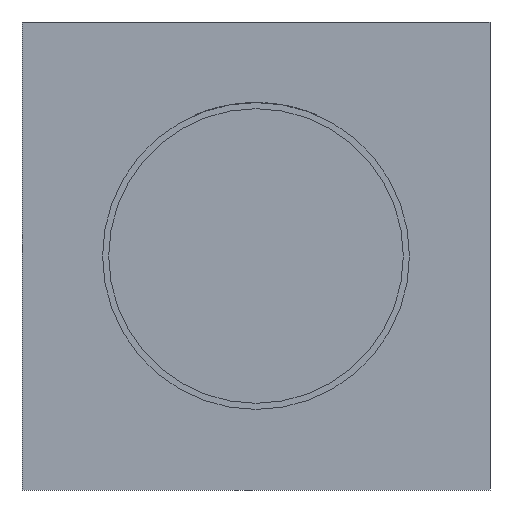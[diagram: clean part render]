
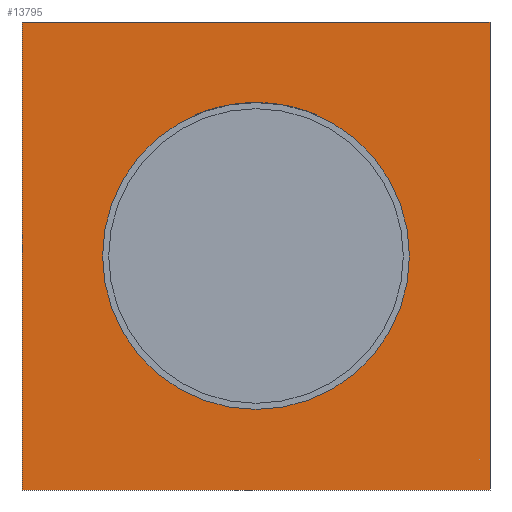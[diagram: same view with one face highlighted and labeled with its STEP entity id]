
A CAD part, front view. The second image highlights one B-rep face of the part: STEP entity #13795.
In plain terms, the highlighted planar face has unit normal (0, -1, 0).
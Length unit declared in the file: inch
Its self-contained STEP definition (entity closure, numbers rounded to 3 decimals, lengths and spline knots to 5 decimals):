
#13499=CARTESIAN_POINT('',(-2.0,4.25,0.0));
#13500=VERTEX_POINT('',#13499);
#13501=CARTESIAN_POINT('',(0.0,4.25,0.0));
#13502=DIRECTION('',(0.0,1.0,0.0));
#13503=DIRECTION('',(-1.0,0.0,0.0));
#13504=AXIS2_PLACEMENT_3D('',#13501,#13502,#13503);
#13505=CIRCLE('',#13504,2.0);
#13506=EDGE_CURVE('',#13500,#13500,#13505,.T.);
#13628=CARTESIAN_POINT('',(3.05,4.25,-3.05));
#13629=VERTEX_POINT('',#13628);
#13630=CARTESIAN_POINT('',(-3.05,4.25,-3.05));
#13631=VERTEX_POINT('',#13630);
#13632=CARTESIAN_POINT('',(3.05,4.25,-3.05));
#13633=DIRECTION('',(-1.0,0.0,0.0));
#13634=VECTOR('',#13633,6.1);
#13635=LINE('',#13632,#13634);
#13636=EDGE_CURVE('',#13629,#13631,#13635,.T.);
#13668=CARTESIAN_POINT('',(-3.05,4.25,3.05));
#13669=VERTEX_POINT('',#13668);
#13670=CARTESIAN_POINT('',(-3.05,4.25,-3.05));
#13671=DIRECTION('',(0.0,0.0,1.0));
#13672=VECTOR('',#13671,6.1);
#13673=LINE('',#13670,#13672);
#13674=EDGE_CURVE('',#13631,#13669,#13673,.T.);
#13699=CARTESIAN_POINT('',(3.05,4.25,3.05));
#13700=VERTEX_POINT('',#13699);
#13701=CARTESIAN_POINT('',(-3.05,4.25,3.05));
#13702=DIRECTION('',(1.0,0.0,0.0));
#13703=VECTOR('',#13702,6.1);
#13704=LINE('',#13701,#13703);
#13705=EDGE_CURVE('',#13669,#13700,#13704,.T.);
#13730=CARTESIAN_POINT('',(3.05,4.25,3.05));
#13731=DIRECTION('',(0.0,0.0,-1.0));
#13732=VECTOR('',#13731,6.1);
#13733=LINE('',#13730,#13732);
#13734=EDGE_CURVE('',#13700,#13629,#13733,.T.);
#13781=CARTESIAN_POINT('',(-2.525,4.25,0.0));
#13782=DIRECTION('',(0.0,-1.0,0.0));
#13783=DIRECTION('',(0.0,0.0,-1.0));
#13784=AXIS2_PLACEMENT_3D('',#13781,#13782,#13783);
#13785=PLANE('',#13784);
#13786=ORIENTED_EDGE('',*,*,#13674,.F.);
#13787=ORIENTED_EDGE('',*,*,#13636,.F.);
#13788=ORIENTED_EDGE('',*,*,#13734,.F.);
#13789=ORIENTED_EDGE('',*,*,#13705,.F.);
#13790=EDGE_LOOP('',(#13786,#13787,#13788,#13789));
#13791=FACE_OUTER_BOUND('',#13790,.T.);
#13792=ORIENTED_EDGE('',*,*,#13506,.T.);
#13793=EDGE_LOOP('',(#13792));
#13794=FACE_BOUND('',#13793,.T.);
#13795=ADVANCED_FACE('',(#13791,#13794),#13785,.T.);
